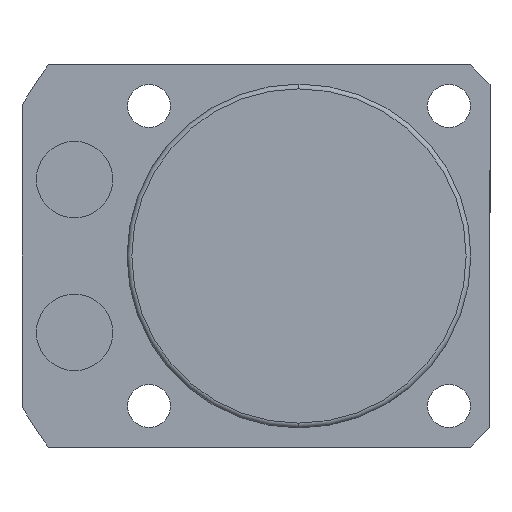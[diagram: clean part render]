
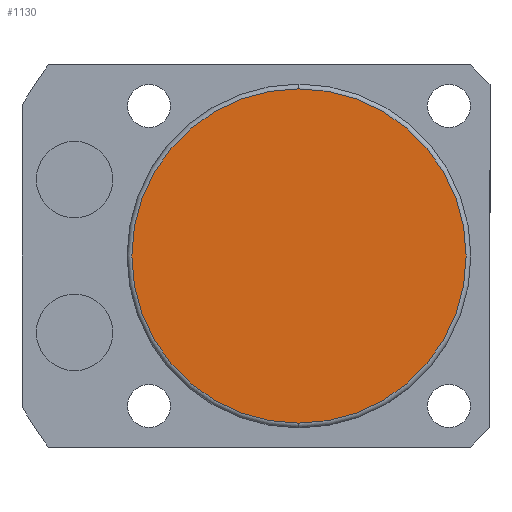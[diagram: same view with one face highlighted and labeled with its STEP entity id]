
A CAD part, front view. The second image highlights one B-rep face of the part: STEP entity #1130.
In plain terms, the highlighted planar face has unit normal (0, -1, 0).
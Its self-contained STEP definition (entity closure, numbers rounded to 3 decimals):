
#123 = DIRECTION ( 'NONE',  ( 0., 0., -1. ) ) ;
#199 = PLANE ( 'NONE',  #1605 ) ;
#215 = DIRECTION ( 'NONE',  ( 0., -1., 0. ) ) ;
#239 = FACE_OUTER_BOUND ( 'NONE', #2123, .T. ) ;
#391 = VERTEX_POINT ( 'NONE', #966 ) ;
#618 = DIRECTION ( 'NONE',  ( 0., -1., 0. ) ) ;
#629 = ORIENTED_EDGE ( 'NONE', *, *, #1191, .T. ) ;
#661 = VERTEX_POINT ( 'NONE', #1495 ) ;
#836 = ORIENTED_EDGE ( 'NONE', *, *, #1284, .T. ) ;
#966 = CARTESIAN_POINT ( 'NONE',  ( 0., -115.5, -17.5 ) ) ;
#1038 = CARTESIAN_POINT ( 'NONE',  ( 0., -115.5, 0. ) ) ;
#1110 = CIRCLE ( 'NONE', #1805, 17.5 ) ;
#1130 = ADVANCED_FACE ( 'NONE', ( #239 ), #199, .T. ) ;
#1191 = EDGE_CURVE ( 'NONE', #661, #391, #1110, .T. ) ;
#1284 = EDGE_CURVE ( 'NONE', #391, #661, #2060, .T. ) ;
#1495 = CARTESIAN_POINT ( 'NONE',  ( 0., -115.5, 17.5 ) ) ;
#1605 = AXIS2_PLACEMENT_3D ( 'NONE', #1880, #215, #1888 ) ;
#1619 = DIRECTION ( 'NONE',  ( 0., -1., 0. ) ) ;
#1805 = AXIS2_PLACEMENT_3D ( 'NONE', #2301, #618, #2311 ) ;
#1880 = CARTESIAN_POINT ( 'NONE',  ( 0., -115.5, 0. ) ) ;
#1888 = DIRECTION ( 'NONE',  ( 0., 0., -1. ) ) ;
#2060 = CIRCLE ( 'NONE', #2446, 17.5 ) ;
#2123 = EDGE_LOOP ( 'NONE', ( #836, #629 ) ) ;
#2301 = CARTESIAN_POINT ( 'NONE',  ( 0., -115.5, 0. ) ) ;
#2311 = DIRECTION ( 'NONE',  ( 0., 0., -1. ) ) ;
#2446 = AXIS2_PLACEMENT_3D ( 'NONE', #1038, #1619, #123 ) ;
